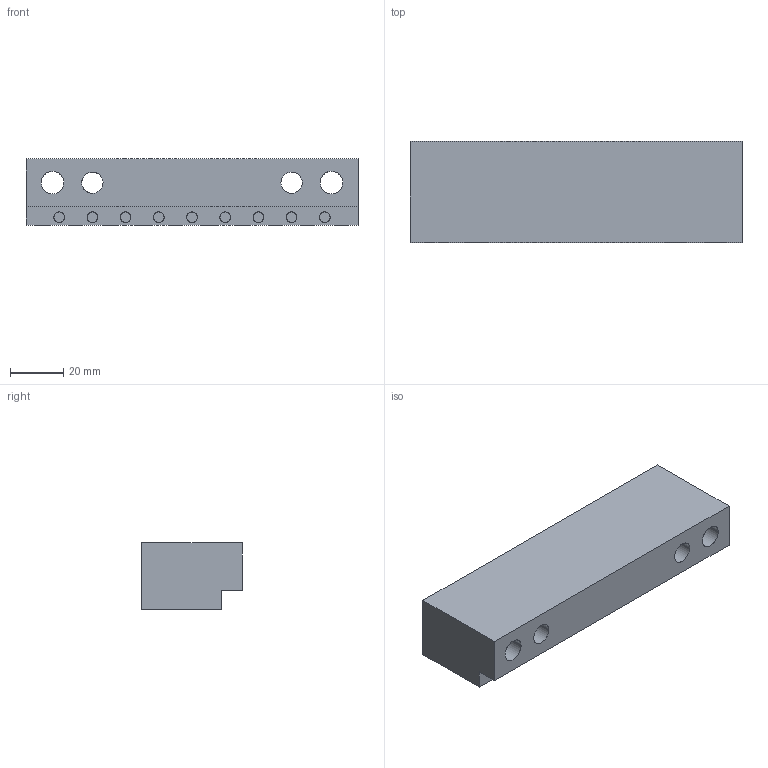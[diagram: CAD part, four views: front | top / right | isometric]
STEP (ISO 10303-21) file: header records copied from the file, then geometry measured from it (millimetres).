
FILE_DESCRIPTION(('CATIA V5 STEP Exchange'),'2;1');
FILE_NAME('C:\Users\Utente\Desktop\3D files G406\G40638125.stp','2020-04-22T11:25:24+00:00',('none'),('none'),'CATIA Version 5 Release 20 GA (IN-10)','CATIA V5 STEP AP203','none');
FILE_SCHEMA(('CONFIG_CONTROL_DESIGN'));
Length unit declared in the file: millimetre
Products named in the file (1): G40638125
Bounding box: 125 x 38 x 25 mm (x, y, z)
Surface area: 24631.6 mm2 (no closed solid volume)
Topology: 0 solids, 372 shells, 372 faces, 1570 edges, 1392 vertices
Faces by surface type: revolution 196, cylinder 128, plane 48
Entity records: 17600 total; most frequent: CARTESIAN_POINT 5987, DIRECTION 1834, ORIENTED_EDGE 1392, EDGE_CURVE 1392, VERTEX_POINT 1392, AXIS2_PLACEMENT_3D 779, VECTOR 684, LINE 684
